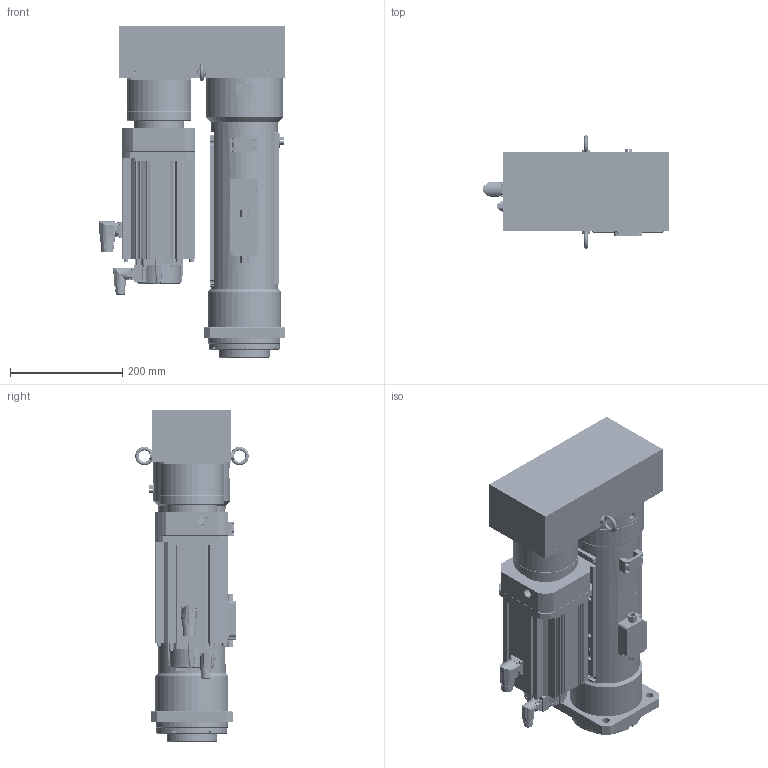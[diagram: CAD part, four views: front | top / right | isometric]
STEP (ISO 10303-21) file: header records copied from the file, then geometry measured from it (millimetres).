
FILE_DESCRIPTION( ('This file contains a STEP AP42 implementation' ,'as created by ZW3D STEP Interface translator.') ,'2;1' );
FILE_NAME( 'OACIS-DC-P035-P040-200-195-A6V400_V20.51.stp' ,'26 424.133615', (''), ('ZWCAD Software Co.'), 'Version 1.0', 'ZW3D to STEP translator', '' );
FILE_SCHEMA(('AUTOMOTIVE_DESIGN { 1 0 10303 214 1 1 1 1 }'));
Length unit declared in the file: millimetre
Products named in the file (1): 0
Bounding box: 331 x 202.25 x 591 mm (x, y, z)
Volume: 11471728.3 mm3; surface area: 1879402.2 mm2
Topology: 57 solids, 57 shells, 3795 faces, 9719 edges, 6234 vertices
Faces by surface type: cylinder 1795, plane 1463, cone 370, torus 107, bspline 48, sphere 12
Full cylindrical faces by diameter (mm): 1.25 x12, 1.567 x4, 2 x1, 2.232 x6, 2.459 x1, 2.8 x1, 3.242 x3, 3.3 x66, 4.2 x4, 4.3 x19, 4.5 x14, 4.917 x20, 5 x1, 5.3 x4, 5.5 x5, 6 x12, 6.647 x6, 6.8 x41, 7 x4, 8 x25, 8.4 x8, 8.5 x4, 9 x26, 9.5 x4, 9.78 x8, 10 x7, 10.104 x4, 10.106 x1, 10.2 x16, 10.5 x4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
Entity records: 131979 total; most frequent: CARTESIAN_POINT 29865, DIRECTION 21380, ORIENTED_EDGE 19242, EDGE_CURVE 9621, AXIS2_PLACEMENT_3D 8449, VERTEX_POINT 6231, CIRCLE 4672, VECTOR 4482
